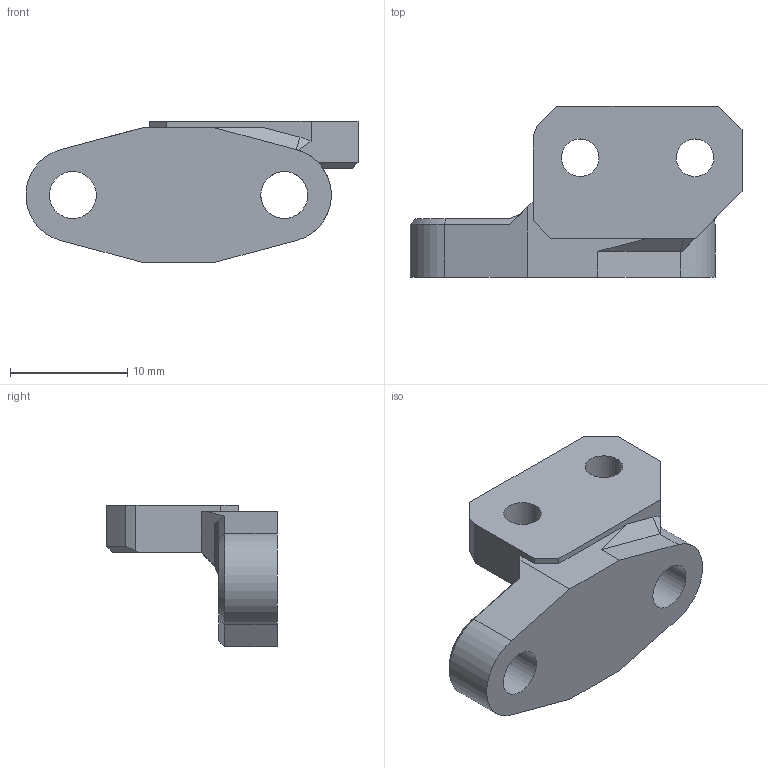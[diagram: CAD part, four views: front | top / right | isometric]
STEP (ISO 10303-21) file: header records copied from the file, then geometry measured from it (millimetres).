
FILE_DESCRIPTION(/* description */ (''),/* implementation_level */ '2;1');
FILE_NAME(/* name */ 'Y:/BLtouch Holder.step',/* time_stamp */ '2022-04-02T16:44:36+02:00',/* author */ (''),/* organization */ (''),/* preprocessor_version */ 'ST-DEVELOPER v18.1',/* originating_system */ 'Autodesk Translation Framework v10.14.0.1471',/* authorisation */ '');
FILE_SCHEMA (('AUTOMOTIVE_DESIGN { 1 0 10303 214 3 1 1 }'));
Length unit declared in the file: millimetre
Products named in the file (1): BLtouch Holder
Bounding box: 28.26 x 14.54 x 12.02 mm (x, y, z)
Volume: 1669.5 mm3; surface area: 1341.8 mm2
Topology: 1 solids, 1 shells, 47 faces, 121 edges, 77 vertices
Faces by surface type: plane 36, cylinder 8, cone 3
Full cylindrical faces by diameter (mm): 3.2 x2, 4 x2, 5.5 x2
Entity records: 1461 total; most frequent: CARTESIAN_POINT 252, ORIENTED_EDGE 242, DIRECTION 242, EDGE_CURVE 121, LINE 90, VECTOR 90, VERTEX_POINT 77, AXIS2_PLACEMENT_3D 76
